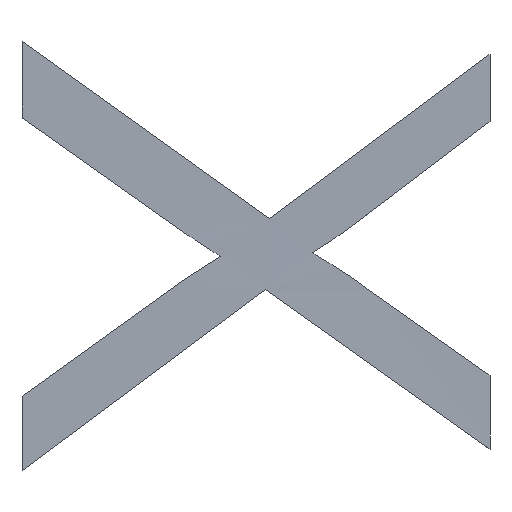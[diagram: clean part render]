
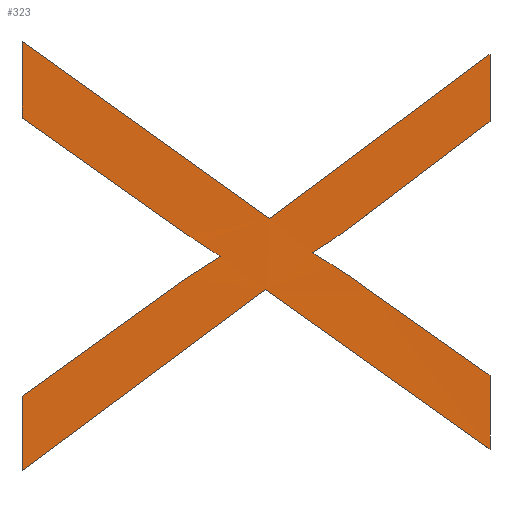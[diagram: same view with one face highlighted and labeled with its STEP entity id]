
A CAD part, top view. The second image highlights one B-rep face of the part: STEP entity #323.
In plain terms, the highlighted planar face has unit normal (0, 0, 1).
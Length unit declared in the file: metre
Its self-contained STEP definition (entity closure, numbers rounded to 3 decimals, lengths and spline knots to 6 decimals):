
#12=B_SPLINE_CURVE_WITH_KNOTS('',3,(#526,#527,#528,#529),.UNSPECIFIED.,
 .F.,.F.,(4,4),(0.,0.000089),.UNSPECIFIED.);
#15=CIRCLE('',#334,0.001459);
#17=CIRCLE('',#337,0.001295);
#19=CIRCLE('',#346,0.001716);
#96=ORIENTED_EDGE('',*,*,#154,.T.);
#97=ORIENTED_EDGE('',*,*,#112,.T.);
#98=ORIENTED_EDGE('',*,*,#116,.T.);
#99=ORIENTED_EDGE('',*,*,#119,.T.);
#100=ORIENTED_EDGE('',*,*,#122,.T.);
#101=ORIENTED_EDGE('',*,*,#124,.T.);
#102=ORIENTED_EDGE('',*,*,#126,.T.);
#103=ORIENTED_EDGE('',*,*,#129,.T.);
#104=ORIENTED_EDGE('',*,*,#132,.T.);
#105=ORIENTED_EDGE('',*,*,#135,.T.);
#106=ORIENTED_EDGE('',*,*,#138,.T.);
#107=ORIENTED_EDGE('',*,*,#141,.T.);
#108=ORIENTED_EDGE('',*,*,#144,.T.);
#109=ORIENTED_EDGE('',*,*,#146,.T.);
#110=ORIENTED_EDGE('',*,*,#148,.T.);
#111=ORIENTED_EDGE('',*,*,#151,.T.);
#112=EDGE_CURVE('',#156,#157,#184,.T.);
#116=EDGE_CURVE('',#157,#160,#188,.T.);
#119=EDGE_CURVE('',#160,#162,#191,.F.);
#122=EDGE_CURVE('',#162,#164,#194,.T.);
#124=EDGE_CURVE('',#164,#165,#15,.T.);
#126=EDGE_CURVE('',#165,#166,#17,.F.);
#129=EDGE_CURVE('',#166,#168,#197,.T.);
#132=EDGE_CURVE('',#168,#170,#200,.F.);
#135=EDGE_CURVE('',#170,#172,#203,.T.);
#138=EDGE_CURVE('',#172,#174,#206,.T.);
#141=EDGE_CURVE('',#174,#176,#209,.T.);
#144=EDGE_CURVE('',#176,#178,#212,.T.);
#146=EDGE_CURVE('',#178,#179,#19,.T.);
#148=EDGE_CURVE('',#179,#180,#12,.T.);
#151=EDGE_CURVE('',#180,#182,#215,.T.);
#154=EDGE_CURVE('',#182,#156,#218,.T.);
#156=VERTEX_POINT('',#439);
#157=VERTEX_POINT('',#440);
#160=VERTEX_POINT('',#448);
#162=VERTEX_POINT('',#454);
#164=VERTEX_POINT('',#460);
#165=VERTEX_POINT('',#464);
#166=VERTEX_POINT('',#468);
#168=VERTEX_POINT('',#474);
#170=VERTEX_POINT('',#480);
#172=VERTEX_POINT('',#486);
#174=VERTEX_POINT('',#492);
#176=VERTEX_POINT('',#498);
#178=VERTEX_POINT('',#504);
#179=VERTEX_POINT('',#508);
#180=VERTEX_POINT('',#530);
#182=VERTEX_POINT('',#540);
#184=LINE('',#438,#220);
#188=LINE('',#447,#224);
#191=LINE('',#453,#227);
#194=LINE('',#459,#230);
#197=LINE('',#473,#233);
#200=LINE('',#479,#236);
#203=LINE('',#485,#239);
#206=LINE('',#491,#242);
#209=LINE('',#497,#245);
#212=LINE('',#503,#248);
#215=LINE('',#539,#251);
#218=LINE('',#545,#254);
#220=VECTOR('',#356,1.);
#224=VECTOR('',#362,1.);
#227=VECTOR('',#367,1.);
#230=VECTOR('',#372,1.);
#233=VECTOR('',#389,1.);
#236=VECTOR('',#394,1.);
#239=VECTOR('',#399,1.);
#242=VECTOR('',#404,1.);
#245=VECTOR('',#409,1.);
#248=VECTOR('',#414,1.);
#251=VECTOR('',#425,1.);
#254=VECTOR('',#430,1.);
#273=EDGE_LOOP('',(#96,#97,#98,#99,#100,#101,#102,#103,#104,#105,#106,#107,
#108,#109,#110,#111));
#291=FACE_BOUND('',#273,.T.);
#305=PLANE('',#351);
#323=ADVANCED_FACE('',(#291),#305,.F.);
#334=AXIS2_PLACEMENT_3D('',#463,#376,#377);
#337=AXIS2_PLACEMENT_3D('',#467,#382,#383);
#346=AXIS2_PLACEMENT_3D('',#507,#418,#419);
#351=AXIS2_PLACEMENT_3D('',#548,#434,#435);
#356=DIRECTION('',(0.803,0.596,0.));
#362=DIRECTION('',(0.815,-0.58,0.));
#367=DIRECTION('',(0.,-1.,0.));
#372=DIRECTION('',(-0.816,0.578,0.));
#376=DIRECTION('',(0.,0.,1.));
#377=DIRECTION('',(-1.,0.,0.));
#382=DIRECTION('',(0.,0.,-1.));
#383=DIRECTION('',(-1.,0.,0.));
#389=DIRECTION('',(0.797,0.604,0.));
#394=DIRECTION('',(0.,-1.,0.));
#399=DIRECTION('',(-0.802,-0.598,0.));
#404=DIRECTION('',(-0.813,0.582,0.));
#409=DIRECTION('',(0.,-1.,0.));
#414=DIRECTION('',(0.817,-0.576,0.));
#418=DIRECTION('',(0.,0.,1.));
#419=DIRECTION('',(-1.,0.,0.));
#425=DIRECTION('',(-0.811,-0.584,0.));
#430=DIRECTION('',(0.,-1.,0.));
#434=DIRECTION('',(0.,0.,-1.));
#435=DIRECTION('',(0.,-1.,0.));
#438=CARTESIAN_POINT('',(-0.036413,0.00171,-0.03));
#439=CARTESIAN_POINT('',(-0.036413,0.00171,-0.03));
#440=CARTESIAN_POINT('',(-0.035891,0.002097,-0.03));
#447=CARTESIAN_POINT('',(-0.035891,0.002097,-0.03));
#448=CARTESIAN_POINT('',(-0.035413,0.001756,-0.03));
#453=CARTESIAN_POINT('',(-0.035413,0.,-0.03));
#454=CARTESIAN_POINT('',(-0.035413,0.001914,-0.03));
#459=CARTESIAN_POINT('',(-0.035413,0.001914,-0.03));
#460=CARTESIAN_POINT('',(-0.035669,0.002095,-0.030001));
#463=CARTESIAN_POINT('',(-0.03653,0.000918,-0.03));
#464=CARTESIAN_POINT('',(-0.035792,0.002176,-0.030001));
#467=CARTESIAN_POINT('',(-0.036473,0.003277,-0.03));
#468=CARTESIAN_POINT('',(-0.035678,0.002255,-0.03));
#473=CARTESIAN_POINT('',(-0.035678,0.002255,-0.03));
#474=CARTESIAN_POINT('',(-0.035413,0.002456,-0.03));
#479=CARTESIAN_POINT('',(-0.035413,0.,-0.03));
#480=CARTESIAN_POINT('',(-0.035413,0.0026,-0.03));
#485=CARTESIAN_POINT('',(-0.035413,0.0026,-0.03));
#486=CARTESIAN_POINT('',(-0.035884,0.002249,-0.03));
#491=CARTESIAN_POINT('',(-0.035884,0.002249,-0.03));
#492=CARTESIAN_POINT('',(-0.036413,0.002627,-0.03));
#497=CARTESIAN_POINT('',(-0.036413,0.,-0.03));
#498=CARTESIAN_POINT('',(-0.036413,0.002464,-0.03));
#503=CARTESIAN_POINT('',(-0.036413,0.002464,-0.03));
#504=CARTESIAN_POINT('',(-0.036056,0.002212,-0.030001));
#507=CARTESIAN_POINT('',(-0.035085,0.003626,-0.03));
#508=CARTESIAN_POINT('',(-0.035989,0.002168,-0.030001));
#526=CARTESIAN_POINT('',(-0.035989,0.002168,-0.03));
#527=CARTESIAN_POINT('',(-0.036014,0.002153,-0.03));
#528=CARTESIAN_POINT('',(-0.036039,0.002137,-0.03));
#529=CARTESIAN_POINT('',(-0.036064,0.00212,-0.03));
#530=CARTESIAN_POINT('',(-0.036064,0.00212,-0.03));
#539=CARTESIAN_POINT('',(-0.036064,0.00212,-0.03));
#540=CARTESIAN_POINT('',(-0.036413,0.001869,-0.03));
#545=CARTESIAN_POINT('',(-0.036413,0.,-0.03));
#548=CARTESIAN_POINT('',(-0.035913,0.,-0.03));
